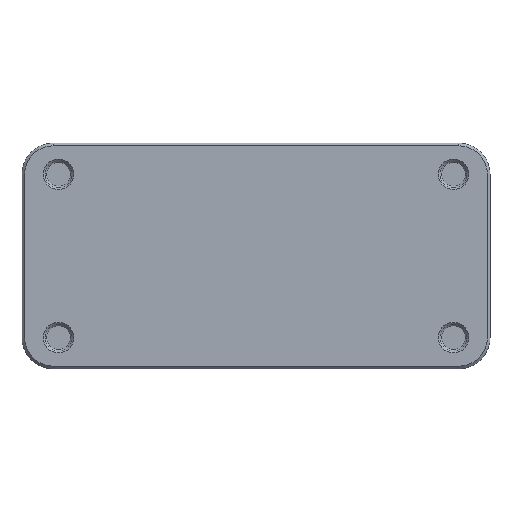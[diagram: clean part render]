
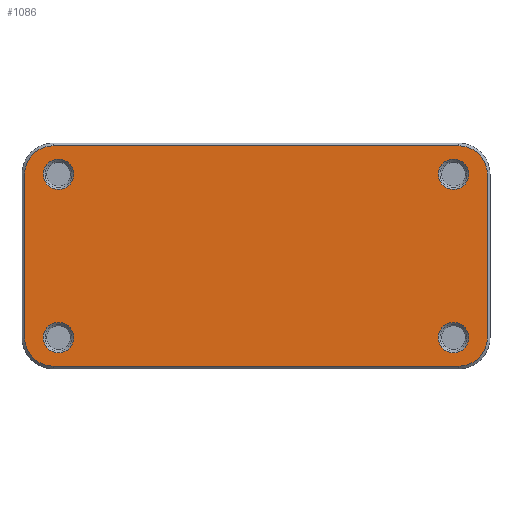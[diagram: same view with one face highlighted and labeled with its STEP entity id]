
A CAD part, top view. The second image highlights one B-rep face of the part: STEP entity #1086.
In plain terms, the highlighted planar face has unit normal (0, 0, 1).
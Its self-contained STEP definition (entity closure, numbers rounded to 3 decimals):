
#15=FACE_BOUND('',#339,.T.);
#16=FACE_BOUND('',#340,.T.);
#17=FACE_BOUND('',#341,.T.);
#18=FACE_BOUND('',#342,.T.);
#78=LINE('',#1817,#162);
#79=LINE('',#1821,#163);
#80=LINE('',#1825,#164);
#81=LINE('',#1829,#165);
#162=VECTOR('',#1404,10.);
#163=VECTOR('',#1407,10.);
#164=VECTOR('',#1410,10.);
#165=VECTOR('',#1413,10.);
#266=FACE_OUTER_BOUND('',#338,.T.);
#338=EDGE_LOOP('',(#811,#812,#813,#814,#815,#816,#817,#818));
#339=EDGE_LOOP('',(#819));
#340=EDGE_LOOP('',(#820));
#341=EDGE_LOOP('',(#821));
#342=EDGE_LOOP('',(#822));
#421=CIRCLE('',#1194,2.85);
#423=CIRCLE('',#1197,5.34);
#424=CIRCLE('',#1198,5.34);
#425=CIRCLE('',#1199,5.34);
#426=CIRCLE('',#1200,5.34);
#427=CIRCLE('',#1201,2.85);
#428=CIRCLE('',#1202,2.85);
#429=CIRCLE('',#1203,2.85);
#499=VERTEX_POINT('',#1809);
#501=VERTEX_POINT('',#1815);
#502=VERTEX_POINT('',#1816);
#503=VERTEX_POINT('',#1818);
#504=VERTEX_POINT('',#1820);
#505=VERTEX_POINT('',#1822);
#506=VERTEX_POINT('',#1824);
#507=VERTEX_POINT('',#1826);
#508=VERTEX_POINT('',#1828);
#509=VERTEX_POINT('',#1831);
#510=VERTEX_POINT('',#1833);
#511=VERTEX_POINT('',#1835);
#617=EDGE_CURVE('',#499,#499,#421,.T.);
#620=EDGE_CURVE('',#501,#502,#78,.T.);
#621=EDGE_CURVE('',#503,#501,#423,.T.);
#622=EDGE_CURVE('',#504,#503,#79,.T.);
#623=EDGE_CURVE('',#505,#504,#424,.T.);
#624=EDGE_CURVE('',#506,#505,#80,.T.);
#625=EDGE_CURVE('',#507,#506,#425,.T.);
#626=EDGE_CURVE('',#508,#507,#81,.T.);
#627=EDGE_CURVE('',#502,#508,#426,.T.);
#628=EDGE_CURVE('',#509,#509,#427,.T.);
#629=EDGE_CURVE('',#510,#510,#428,.T.);
#630=EDGE_CURVE('',#511,#511,#429,.T.);
#811=ORIENTED_EDGE('',*,*,#620,.F.);
#812=ORIENTED_EDGE('',*,*,#621,.F.);
#813=ORIENTED_EDGE('',*,*,#622,.F.);
#814=ORIENTED_EDGE('',*,*,#623,.F.);
#815=ORIENTED_EDGE('',*,*,#624,.F.);
#816=ORIENTED_EDGE('',*,*,#625,.F.);
#817=ORIENTED_EDGE('',*,*,#626,.F.);
#818=ORIENTED_EDGE('',*,*,#627,.F.);
#819=ORIENTED_EDGE('',*,*,#628,.F.);
#820=ORIENTED_EDGE('',*,*,#629,.F.);
#821=ORIENTED_EDGE('',*,*,#630,.F.);
#822=ORIENTED_EDGE('',*,*,#617,.F.);
#1041=PLANE('',#1196);
#1086=ADVANCED_FACE('',(#266,#15,#16,#17,#18),#1041,.T.);
#1194=AXIS2_PLACEMENT_3D('',#1810,#1397,#1398);
#1196=AXIS2_PLACEMENT_3D('',#1814,#1402,#1403);
#1197=AXIS2_PLACEMENT_3D('',#1819,#1405,#1406);
#1198=AXIS2_PLACEMENT_3D('',#1823,#1408,#1409);
#1199=AXIS2_PLACEMENT_3D('',#1827,#1411,#1412);
#1200=AXIS2_PLACEMENT_3D('',#1830,#1414,#1415);
#1201=AXIS2_PLACEMENT_3D('',#1832,#1416,#1417);
#1202=AXIS2_PLACEMENT_3D('',#1834,#1418,#1419);
#1203=AXIS2_PLACEMENT_3D('',#1836,#1420,#1421);
#1397=DIRECTION('center_axis',(0.,0.,1.));
#1398=DIRECTION('ref_axis',(-1.,0.,0.));
#1402=DIRECTION('center_axis',(0.,0.,1.));
#1403=DIRECTION('ref_axis',(-1.,0.,0.));
#1404=DIRECTION('',(1.,0.,0.));
#1405=DIRECTION('center_axis',(0.,0.,-1.));
#1406=DIRECTION('ref_axis',(0.,1.,0.));
#1407=DIRECTION('',(0.,1.,0.));
#1408=DIRECTION('center_axis',(0.,0.,-1.));
#1409=DIRECTION('ref_axis',(-1.,0.,0.));
#1410=DIRECTION('',(-1.,0.,0.));
#1411=DIRECTION('center_axis',(0.,0.,-1.));
#1412=DIRECTION('ref_axis',(0.,-1.,0.));
#1413=DIRECTION('',(0.,-1.,0.));
#1414=DIRECTION('center_axis',(0.,0.,-1.));
#1415=DIRECTION('ref_axis',(1.,0.,0.));
#1416=DIRECTION('center_axis',(0.,0.,1.));
#1417=DIRECTION('ref_axis',(-1.,0.,0.));
#1418=DIRECTION('center_axis',(0.,0.,1.));
#1419=DIRECTION('ref_axis',(-1.,0.,0.));
#1420=DIRECTION('center_axis',(0.,0.,1.));
#1421=DIRECTION('ref_axis',(-1.,0.,0.));
#1809=CARTESIAN_POINT('',(-2.15,14.6,17.2));
#1810=CARTESIAN_POINT('Origin',(-5.,14.6,17.2));
#1814=CARTESIAN_POINT('Origin',(32.,-0.7,17.2));
#1815=CARTESIAN_POINT('',(-6.,19.94,17.2));
#1816=CARTESIAN_POINT('',(70.,19.94,17.2));
#1817=CARTESIAN_POINT('',(13.,19.94,17.2));
#1818=CARTESIAN_POINT('',(-11.34,14.6,17.2));
#1819=CARTESIAN_POINT('Origin',(-6.,14.6,17.2));
#1820=CARTESIAN_POINT('',(-11.34,-16.,17.2));
#1821=CARTESIAN_POINT('',(-11.34,-8.35,17.2));
#1822=CARTESIAN_POINT('',(-6.,-21.34,17.2));
#1823=CARTESIAN_POINT('Origin',(-6.,-16.,17.2));
#1824=CARTESIAN_POINT('',(70.,-21.34,17.2));
#1825=CARTESIAN_POINT('',(51.,-21.34,17.2));
#1826=CARTESIAN_POINT('',(75.34,-16.,17.2));
#1827=CARTESIAN_POINT('Origin',(70.,-16.,17.2));
#1828=CARTESIAN_POINT('',(75.34,14.6,17.2));
#1829=CARTESIAN_POINT('',(75.34,6.95,17.2));
#1830=CARTESIAN_POINT('Origin',(70.,14.6,17.2));
#1831=CARTESIAN_POINT('',(-2.15,-16.,17.2));
#1832=CARTESIAN_POINT('Origin',(-5.,-16.,17.2));
#1833=CARTESIAN_POINT('',(71.85,-16.,17.2));
#1834=CARTESIAN_POINT('Origin',(69.,-16.,17.2));
#1835=CARTESIAN_POINT('',(71.85,14.6,17.2));
#1836=CARTESIAN_POINT('Origin',(69.,14.6,17.2));
